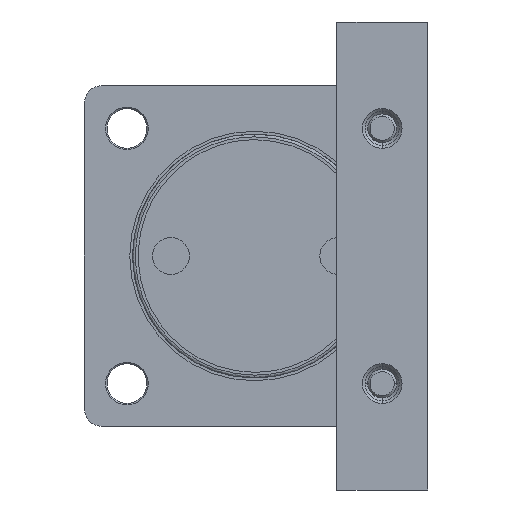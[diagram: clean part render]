
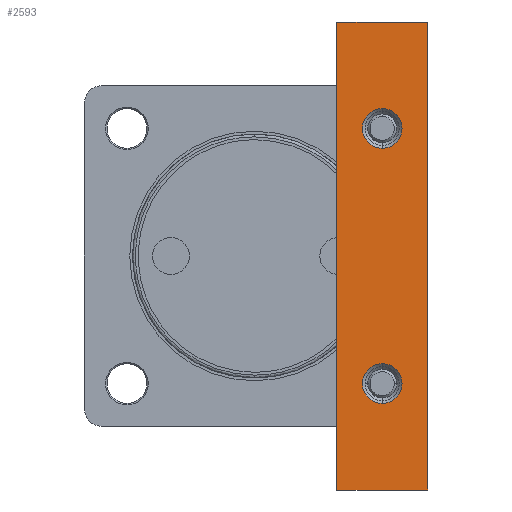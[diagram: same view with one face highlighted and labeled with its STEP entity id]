
A CAD part, left-side view. The second image highlights one B-rep face of the part: STEP entity #2593.
In plain terms, the highlighted planar face has unit normal (-1, 0, 0).
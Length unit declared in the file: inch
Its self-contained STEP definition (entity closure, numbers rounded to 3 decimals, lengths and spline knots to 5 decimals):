
#296 = CARTESIAN_POINT ( 'NONE',  ( -2.1063, -1.77165, -2.04724 ) ) ;
#683 = EDGE_CURVE ( 'NONE', #9579, #9685, #2142, .T. ) ;
#752 = EDGE_LOOP ( 'NONE', ( #10131, #8692, #7371, #5794 ) ) ;
#776 = EDGE_CURVE ( 'NONE', #9685, #5789, #2129, .T. ) ;
#1446 = CARTESIAN_POINT ( 'NONE',  ( -2.1063, -2.40157, 3.24803 ) ) ;
#1550 = DIRECTION ( 'NONE',  ( 0., 0., 1. ) ) ;
#1868 = ORIENTED_EDGE ( 'NONE', *, *, #2052, .F. ) ;
#1870 = VECTOR ( 'NONE', #2139, 39.37008 ) ;
#2052 = EDGE_CURVE ( 'NONE', #9235, #5477, #13809, .T. ) ;
#2111 = EDGE_CURVE ( 'NONE', #11894, #6110, #7570, .T. ) ;
#2127 = VECTOR ( 'NONE', #3065, 39.37008 ) ;
#2129 = LINE ( 'NONE', #2926, #1870 ) ;
#2139 = DIRECTION ( 'NONE',  ( 0., 0., -1. ) ) ;
#2142 = LINE ( 'NONE', #2975, #2127 ) ;
#2393 = ORIENTED_EDGE ( 'NONE', *, *, #10091, .F. ) ;
#2593 = ADVANCED_FACE ( 'NONE', ( #10699, #11662, #7352 ), #7795, .F. ) ;
#2926 = CARTESIAN_POINT ( 'NONE',  ( -2.1063, -1.14173, 3.24803 ) ) ;
#2975 = CARTESIAN_POINT ( 'NONE',  ( -2.1063, -1.14173, 3.24803 ) ) ;
#3065 = DIRECTION ( 'NONE',  ( 0., 1., 0. ) ) ;
#3235 = VERTEX_POINT ( 'NONE', #6712 ) ;
#3961 = CARTESIAN_POINT ( 'NONE',  ( -2.1063, -1.77165, -1.49606 ) ) ;
#4066 = DIRECTION ( 'NONE',  ( -1., 0., 0. ) ) ;
#4421 = ORIENTED_EDGE ( 'NONE', *, *, #2111, .F. ) ;
#4830 = DIRECTION ( 'NONE',  ( 0., 0., 1. ) ) ;
#4841 = DIRECTION ( 'NONE',  ( -1., 0., 0. ) ) ;
#4853 = VECTOR ( 'NONE', #7389, 39.37008 ) ;
#4856 = CARTESIAN_POINT ( 'NONE',  ( -2.1063, -1.77165, -1.77165 ) ) ;
#4993 = LINE ( 'NONE', #7450, #4853 ) ;
#5172 = CARTESIAN_POINT ( 'NONE',  ( -2.1063, -1.77165, 1.77165 ) ) ;
#5477 = VERTEX_POINT ( 'NONE', #3961 ) ;
#5529 = EDGE_LOOP ( 'NONE', ( #12436, #4421 ) ) ;
#5789 = VERTEX_POINT ( 'NONE', #13612 ) ;
#5794 = ORIENTED_EDGE ( 'NONE', *, *, #683, .T. ) ;
#6046 = AXIS2_PLACEMENT_3D ( 'NONE', #13472, #13455, #13428 ) ;
#6110 = VERTEX_POINT ( 'NONE', #11883 ) ;
#6376 = EDGE_CURVE ( 'NONE', #5789, #3235, #4993, .T. ) ;
#6712 = CARTESIAN_POINT ( 'NONE',  ( -2.1063, -2.40157, -3.24803 ) ) ;
#6800 = CARTESIAN_POINT ( 'NONE',  ( -2.1063, -1.77165, -1.77165 ) ) ;
#6903 = DIRECTION ( 'NONE',  ( 0., 0., 1. ) ) ;
#7352 = FACE_BOUND ( 'NONE', #8882, .T. ) ;
#7371 = ORIENTED_EDGE ( 'NONE', *, *, #10779, .T. ) ;
#7389 = DIRECTION ( 'NONE',  ( 0., -1., 0. ) ) ;
#7450 = CARTESIAN_POINT ( 'NONE',  ( -2.1063, -1.14173, -3.24803 ) ) ;
#7570 = CIRCLE ( 'NONE', #8883, 0.27559 ) ;
#7767 = DIRECTION ( 'NONE',  ( 0., 0., -1. ) ) ;
#7778 = DIRECTION ( 'NONE',  ( 1., 0., 0. ) ) ;
#7795 = PLANE ( 'NONE',  #7996 ) ;
#7967 = CARTESIAN_POINT ( 'NONE',  ( -2.1063, -1.77165, 1.49606 ) ) ;
#7996 = AXIS2_PLACEMENT_3D ( 'NONE', #8137, #7778, #7767 ) ;
#8117 = CARTESIAN_POINT ( 'NONE',  ( -2.1063, -2.40157, 3.24803 ) ) ;
#8137 = CARTESIAN_POINT ( 'NONE',  ( -2.1063, -2.40157, 3.24803 ) ) ;
#8423 = DIRECTION ( 'NONE',  ( -1., 0., 0. ) ) ;
#8541 = CIRCLE ( 'NONE', #6046, 0.27559 ) ;
#8692 = ORIENTED_EDGE ( 'NONE', *, *, #6376, .T. ) ;
#8882 = EDGE_LOOP ( 'NONE', ( #2393, #1868 ) ) ;
#8883 = AXIS2_PLACEMENT_3D ( 'NONE', #5172, #4066, #9407 ) ;
#9013 = AXIS2_PLACEMENT_3D ( 'NONE', #6800, #8423, #6903 ) ;
#9235 = VERTEX_POINT ( 'NONE', #296 ) ;
#9277 = AXIS2_PLACEMENT_3D ( 'NONE', #4856, #4841, #4830 ) ;
#9407 = DIRECTION ( 'NONE',  ( 0., 0., 1. ) ) ;
#9579 = VERTEX_POINT ( 'NONE', #8117 ) ;
#9685 = VERTEX_POINT ( 'NONE', #13894 ) ;
#10091 = EDGE_CURVE ( 'NONE', #5477, #9235, #12922, .T. ) ;
#10131 = ORIENTED_EDGE ( 'NONE', *, *, #776, .T. ) ;
#10699 = FACE_OUTER_BOUND ( 'NONE', #752, .T. ) ;
#10779 = EDGE_CURVE ( 'NONE', #3235, #9579, #13944, .T. ) ;
#11472 = EDGE_CURVE ( 'NONE', #6110, #11894, #8541, .T. ) ;
#11662 = FACE_BOUND ( 'NONE', #5529, .T. ) ;
#11883 = CARTESIAN_POINT ( 'NONE',  ( -2.1063, -1.77165, 2.04724 ) ) ;
#11894 = VERTEX_POINT ( 'NONE', #7967 ) ;
#12436 = ORIENTED_EDGE ( 'NONE', *, *, #11472, .F. ) ;
#12922 = CIRCLE ( 'NONE', #9277, 0.27559 ) ;
#13428 = DIRECTION ( 'NONE',  ( 0., 0., 1. ) ) ;
#13455 = DIRECTION ( 'NONE',  ( -1., 0., 0. ) ) ;
#13472 = CARTESIAN_POINT ( 'NONE',  ( -2.1063, -1.77165, 1.77165 ) ) ;
#13612 = CARTESIAN_POINT ( 'NONE',  ( -2.1063, -1.14173, -3.24803 ) ) ;
#13809 = CIRCLE ( 'NONE', #9013, 0.27559 ) ;
#13894 = CARTESIAN_POINT ( 'NONE',  ( -2.1063, -1.14173, 3.24803 ) ) ;
#13923 = VECTOR ( 'NONE', #1550, 39.37008 ) ;
#13944 = LINE ( 'NONE', #1446, #13923 ) ;
